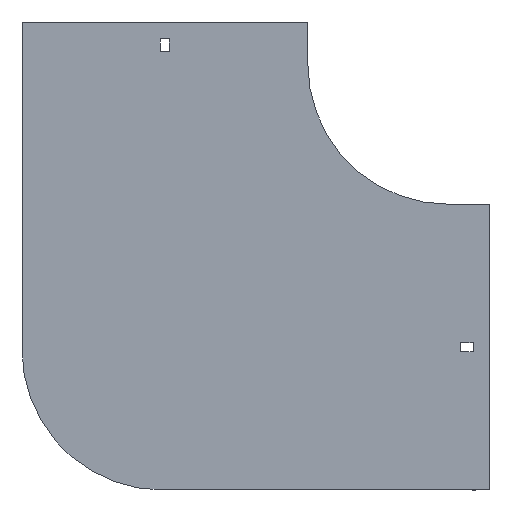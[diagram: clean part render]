
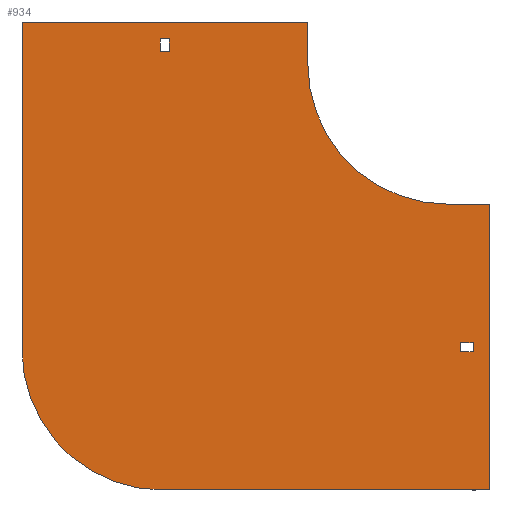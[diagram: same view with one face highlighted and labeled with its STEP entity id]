
A CAD part, front view. The second image highlights one B-rep face of the part: STEP entity #934.
In plain terms, the highlighted planar face has unit normal (0, -1, 0).
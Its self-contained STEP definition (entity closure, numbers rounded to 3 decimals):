
#1 = DIRECTION ( 'NONE',  ( 0., 0., 1. ) ) ;
#50 = DIRECTION ( 'NONE',  ( 0., 0., -1. ) ) ;
#65 = ORIENTED_EDGE ( 'NONE', *, *, #239, .F. ) ;
#68 = ORIENTED_EDGE ( 'NONE', *, *, #1036, .T. ) ;
#73 = DIRECTION ( 'NONE',  ( 1., 0., 0. ) ) ;
#99 = VECTOR ( 'NONE', #73, 1000. ) ;
#103 = EDGE_CURVE ( 'NONE', #188, #1323, #487, .T. ) ;
#112 = CARTESIAN_POINT ( 'NONE',  ( -304., 0., -204. ) ) ;
#115 = CARTESIAN_POINT ( 'NONE',  ( -304., 0., 30. ) ) ;
#119 = EDGE_LOOP ( 'NONE', ( #68, #279, #1808, #937 ) ) ;
#126 = EDGE_CURVE ( 'NONE', #336, #188, #1218, .T. ) ;
#136 = AXIS2_PLACEMENT_3D ( 'NONE', #1105, #1846, #946 ) ;
#137 = CARTESIAN_POINT ( 'NONE',  ( 18., 0., -205.25 ) ) ;
#157 = DIRECTION ( 'NONE',  ( 1., 0., 0. ) ) ;
#188 = VERTEX_POINT ( 'NONE', #932 ) ;
#235 = CARTESIAN_POINT ( 'NONE',  ( 18., 0., -198.75 ) ) ;
#239 = EDGE_CURVE ( 'NONE', #519, #1473, #1716, .T. ) ;
#260 = ORIENTED_EDGE ( 'NONE', *, *, #1804, .F. ) ;
#279 = ORIENTED_EDGE ( 'NONE', *, *, #490, .T. ) ;
#297 = LINE ( 'NONE', #1471, #1175 ) ;
#336 = VERTEX_POINT ( 'NONE', #1319 ) ;
#344 = LINE ( 'NONE', #915, #1773 ) ;
#354 = EDGE_CURVE ( 'NONE', #1767, #483, #1469, .T. ) ;
#379 = CARTESIAN_POINT ( 'NONE',  ( -304., 0., 30. ) ) ;
#389 = CARTESIAN_POINT ( 'NONE',  ( -198.75, 0., 18. ) ) ;
#397 = VERTEX_POINT ( 'NONE', #1427 ) ;
#412 = VERTEX_POINT ( 'NONE', #379 ) ;
#433 = EDGE_LOOP ( 'NONE', ( #1229, #1825, #854, #582 ) ) ;
#434 = CARTESIAN_POINT ( 'NONE',  ( 9., 0., -198.75 ) ) ;
#438 = FACE_BOUND ( 'NONE', #433, .T. ) ;
#442 = EDGE_CURVE ( 'NONE', #1794, #840, #1784, .T. ) ;
#465 = CARTESIAN_POINT ( 'NONE',  ( 30., 0., -100. ) ) ;
#483 = VERTEX_POINT ( 'NONE', #766 ) ;
#487 = CIRCLE ( 'NONE', #1306, 100. ) ;
#490 = EDGE_CURVE ( 'NONE', #1408, #1089, #1520, .T. ) ;
#519 = VERTEX_POINT ( 'NONE', #1329 ) ;
#549 = EDGE_CURVE ( 'NONE', #397, #755, #1820, .T. ) ;
#551 = DIRECTION ( 'NONE',  ( 0., 0., -1. ) ) ;
#562 = EDGE_CURVE ( 'NONE', #483, #1794, #1828, .T. ) ;
#577 = FACE_BOUND ( 'NONE', #119, .T. ) ;
#582 = ORIENTED_EDGE ( 'NONE', *, *, #1061, .F. ) ;
#583 = CARTESIAN_POINT ( 'NONE',  ( -205.25, 0., 18. ) ) ;
#585 = VERTEX_POINT ( 'NONE', #1405 ) ;
#632 = DIRECTION ( 'NONE',  ( 1., 0., 0. ) ) ;
#668 = ORIENTED_EDGE ( 'NONE', *, *, #1836, .F. ) ;
#721 = CARTESIAN_POINT ( 'NONE',  ( 18., 0., -205.25 ) ) ;
#724 = CARTESIAN_POINT ( 'NONE',  ( 30., 0., -304. ) ) ;
#740 = LINE ( 'NONE', #1343, #1594 ) ;
#755 = VERTEX_POINT ( 'NONE', #1290 ) ;
#756 = EDGE_CURVE ( 'NONE', #412, #519, #1893, .T. ) ;
#757 = FACE_OUTER_BOUND ( 'NONE', #1297, .T. ) ;
#766 = CARTESIAN_POINT ( 'NONE',  ( 9., 0., -205.25 ) ) ;
#768 = DIRECTION ( 'NONE',  ( 0., 0., 1. ) ) ;
#774 = CARTESIAN_POINT ( 'NONE',  ( 9., 0., -205.25 ) ) ;
#840 = VERTEX_POINT ( 'NONE', #235 ) ;
#842 = DIRECTION ( 'NONE',  ( 0., 0., 1. ) ) ;
#847 = ORIENTED_EDGE ( 'NONE', *, *, #103, .F. ) ;
#854 = ORIENTED_EDGE ( 'NONE', *, *, #354, .F. ) ;
#865 = ORIENTED_EDGE ( 'NONE', *, *, #126, .F. ) ;
#872 = CARTESIAN_POINT ( 'NONE',  ( -205.25, 0., 9. ) ) ;
#904 = LINE ( 'NONE', #1217, #939 ) ;
#913 = DIRECTION ( 'NONE',  ( 0., 1., 0. ) ) ;
#915 = CARTESIAN_POINT ( 'NONE',  ( -198.75, 0., 9. ) ) ;
#919 = CIRCLE ( 'NONE', #136, 100. ) ;
#932 = CARTESIAN_POINT ( 'NONE',  ( -204., 0., -304. ) ) ;
#934 = ADVANCED_FACE ( 'NONE', ( #577, #757, #438 ), #1178, .T. ) ;
#937 = ORIENTED_EDGE ( 'NONE', *, *, #549, .T. ) ;
#939 = VECTOR ( 'NONE', #1540, 1000. ) ;
#946 = DIRECTION ( 'NONE',  ( 0., 0., -1. ) ) ;
#969 = VECTOR ( 'NONE', #768, 1000. ) ;
#1024 = VECTOR ( 'NONE', #1541, 1000. ) ;
#1036 = EDGE_CURVE ( 'NONE', #755, #1408, #1829, .T. ) ;
#1046 = CARTESIAN_POINT ( 'NONE',  ( 0., 0., 0. ) ) ;
#1061 = EDGE_CURVE ( 'NONE', #840, #1767, #904, .T. ) ;
#1088 = EDGE_CURVE ( 'NONE', #1323, #412, #1873, .T. ) ;
#1089 = VERTEX_POINT ( 'NONE', #389 ) ;
#1091 = VECTOR ( 'NONE', #632, 1000. ) ;
#1105 = CARTESIAN_POINT ( 'NONE',  ( 0., 0., 0. ) ) ;
#1121 = VECTOR ( 'NONE', #1, 1000. ) ;
#1175 = VECTOR ( 'NONE', #1935, 1000. ) ;
#1178 = PLANE ( 'NONE',  #1847 ) ;
#1217 = CARTESIAN_POINT ( 'NONE',  ( 9., 0., -198.75 ) ) ;
#1218 = LINE ( 'NONE', #724, #1241 ) ;
#1229 = ORIENTED_EDGE ( 'NONE', *, *, #442, .F. ) ;
#1241 = VECTOR ( 'NONE', #1522, 1000. ) ;
#1243 = CARTESIAN_POINT ( 'NONE',  ( -100., 0., 0. ) ) ;
#1290 = CARTESIAN_POINT ( 'NONE',  ( -205.25, 0., 9. ) ) ;
#1297 = EDGE_LOOP ( 'NONE', ( #1403, #1743, #847, #865, #668, #260, #1659, #65 ) ) ;
#1306 = AXIS2_PLACEMENT_3D ( 'NONE', #1514, #913, #1316 ) ;
#1316 = DIRECTION ( 'NONE',  ( 0., 0., 1. ) ) ;
#1319 = CARTESIAN_POINT ( 'NONE',  ( 30., 0., -304. ) ) ;
#1323 = VERTEX_POINT ( 'NONE', #112 ) ;
#1329 = CARTESIAN_POINT ( 'NONE',  ( -100., 0., 30. ) ) ;
#1341 = CARTESIAN_POINT ( 'NONE',  ( -205.25, 0., 18. ) ) ;
#1343 = CARTESIAN_POINT ( 'NONE',  ( 30., 0., -100. ) ) ;
#1403 = ORIENTED_EDGE ( 'NONE', *, *, #756, .F. ) ;
#1405 = CARTESIAN_POINT ( 'NONE',  ( 0., 0., -100. ) ) ;
#1407 = CARTESIAN_POINT ( 'NONE',  ( -100., 0., 30. ) ) ;
#1408 = VERTEX_POINT ( 'NONE', #583 ) ;
#1427 = CARTESIAN_POINT ( 'NONE',  ( -198.75, 0., 9. ) ) ;
#1439 = VECTOR ( 'NONE', #1479, 1000. ) ;
#1469 = LINE ( 'NONE', #1904, #1636 ) ;
#1471 = CARTESIAN_POINT ( 'NONE',  ( 0., 0., -100. ) ) ;
#1473 = VERTEX_POINT ( 'NONE', #1243 ) ;
#1479 = DIRECTION ( 'NONE',  ( -1., 0., 0. ) ) ;
#1492 = EDGE_CURVE ( 'NONE', #1089, #397, #344, .T. ) ;
#1497 = EDGE_CURVE ( 'NONE', #1473, #585, #919, .T. ) ;
#1504 = DIRECTION ( 'NONE',  ( 0., 0., -1. ) ) ;
#1506 = VECTOR ( 'NONE', #842, 1000. ) ;
#1509 = VERTEX_POINT ( 'NONE', #465 ) ;
#1514 = CARTESIAN_POINT ( 'NONE',  ( -204., 0., -204. ) ) ;
#1520 = LINE ( 'NONE', #1341, #1537 ) ;
#1522 = DIRECTION ( 'NONE',  ( -1., 0., 0. ) ) ;
#1537 = VECTOR ( 'NONE', #157, 1000. ) ;
#1540 = DIRECTION ( 'NONE',  ( -1., 0., 0. ) ) ;
#1541 = DIRECTION ( 'NONE',  ( 0., 0., -1. ) ) ;
#1570 = CARTESIAN_POINT ( 'NONE',  ( -304., 0., -204. ) ) ;
#1594 = VECTOR ( 'NONE', #1504, 1000. ) ;
#1636 = VECTOR ( 'NONE', #551, 1000. ) ;
#1659 = ORIENTED_EDGE ( 'NONE', *, *, #1497, .F. ) ;
#1694 = CARTESIAN_POINT ( 'NONE',  ( -205.25, 0., 9. ) ) ;
#1716 = LINE ( 'NONE', #1407, #1024 ) ;
#1743 = ORIENTED_EDGE ( 'NONE', *, *, #1088, .F. ) ;
#1767 = VERTEX_POINT ( 'NONE', #434 ) ;
#1773 = VECTOR ( 'NONE', #50, 1000. ) ;
#1782 = DIRECTION ( 'NONE',  ( 0., -1., 0. ) ) ;
#1784 = LINE ( 'NONE', #137, #1121 ) ;
#1794 = VERTEX_POINT ( 'NONE', #721 ) ;
#1800 = DIRECTION ( 'NONE',  ( 0., 0., -1. ) ) ;
#1804 = EDGE_CURVE ( 'NONE', #585, #1509, #297, .T. ) ;
#1808 = ORIENTED_EDGE ( 'NONE', *, *, #1492, .T. ) ;
#1820 = LINE ( 'NONE', #872, #1439 ) ;
#1825 = ORIENTED_EDGE ( 'NONE', *, *, #562, .F. ) ;
#1828 = LINE ( 'NONE', #774, #1091 ) ;
#1829 = LINE ( 'NONE', #1694, #969 ) ;
#1836 = EDGE_CURVE ( 'NONE', #1509, #336, #740, .T. ) ;
#1846 = DIRECTION ( 'NONE',  ( 0., -1., 0. ) ) ;
#1847 = AXIS2_PLACEMENT_3D ( 'NONE', #1046, #1782, #1800 ) ;
#1873 = LINE ( 'NONE', #1570, #1506 ) ;
#1893 = LINE ( 'NONE', #115, #99 ) ;
#1904 = CARTESIAN_POINT ( 'NONE',  ( 9., 0., -205.25 ) ) ;
#1935 = DIRECTION ( 'NONE',  ( 1., 0., 0. ) ) ;
